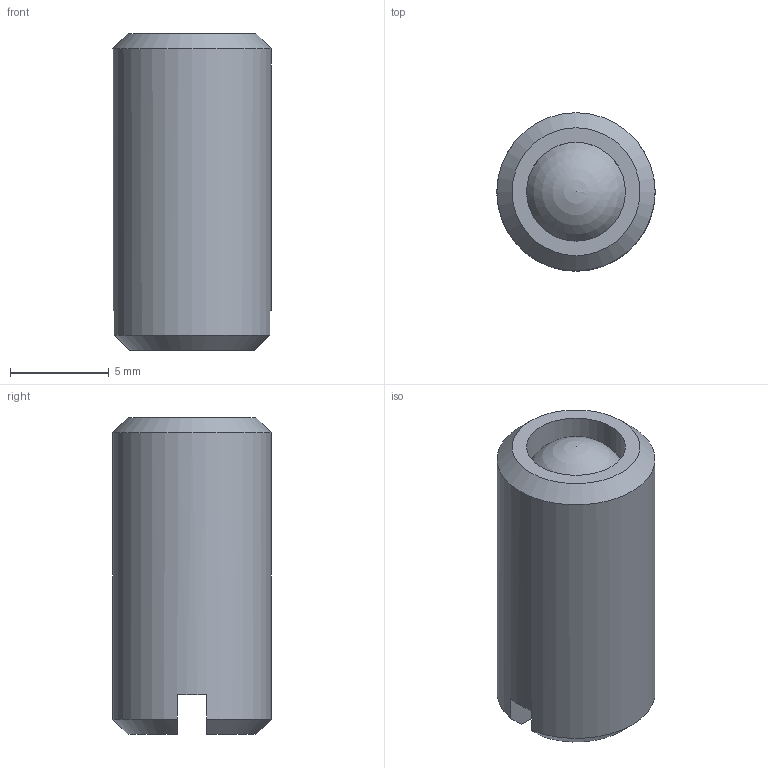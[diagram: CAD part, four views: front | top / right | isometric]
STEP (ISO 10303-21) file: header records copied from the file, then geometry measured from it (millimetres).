
FILE_DESCRIPTION( ( 'STEP AP203' ), '1' );
FILE_NAME( 'C:/Temp/Ganter_Step_05_03_2020/data/3_1/gn615_2/Plastic-Spring plunger GN 615.2-M8-P (activated).stp', '2020-03-12T08:38:39', ( 'License CC BY-ND 4.0' ), ( 'CADENAS' ), ' ', 'PARTsolutions', ' ' );
FILE_SCHEMA( ( 'CONFIG_CONTROL_DESIGN' ) );
Length unit declared in the file: millimetre
Products named in the file (1): _Plastic-Spring plunger GN 615.2-M8-P (activated)
Bounding box: 8 x 8 x 16 mm (x, y, z)
Volume: 754.5 mm3; surface area: 534.7 mm2
Topology: 1 solids, 1 shells, 12 faces, 29 edges, 19 vertices
Faces by surface type: plane 6, cone 3, cylinder 2, sphere 1
Full cylindrical faces by diameter (mm): 5 x1, 8 x1
Entity records: 360 total; most frequent: CARTESIAN_POINT 64, DIRECTION 54, ORIENTED_EDGE 44, AXIS2_PLACEMENT_3D 23, EDGE_CURVE 22, VERTEX_POINT 17, EDGE_LOOP 16, FACE_OUTER_BOUND 14
